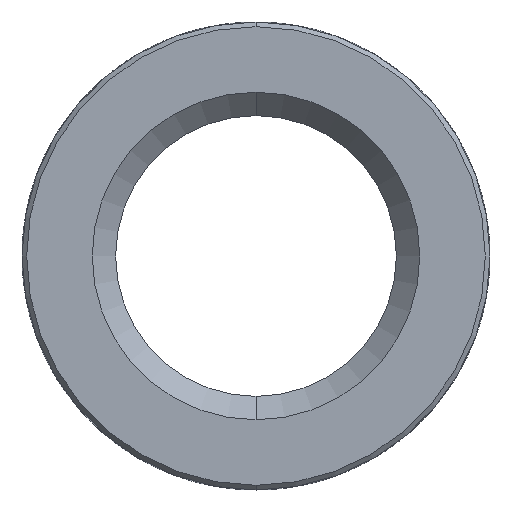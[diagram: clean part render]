
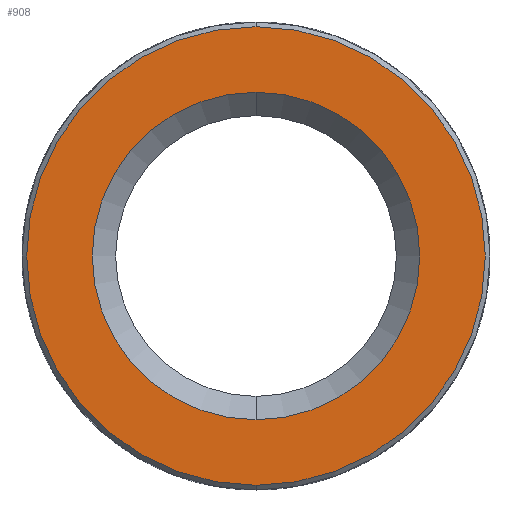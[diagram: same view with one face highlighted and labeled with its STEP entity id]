
A CAD part, front view. The second image highlights one B-rep face of the part: STEP entity #908.
In plain terms, the highlighted planar face has unit normal (0, -1, 0).
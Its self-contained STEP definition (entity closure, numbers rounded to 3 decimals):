
#254 = VERTEX_POINT ( 'NONE', #1795 ) ;
#307 = DIRECTION ( 'NONE',  ( 0., 0., -1. ) ) ;
#365 = CIRCLE ( 'NONE', #3553, 3.5 ) ;
#474 = ORIENTED_EDGE ( 'NONE', *, *, #2807, .T. ) ;
#486 = DIRECTION ( 'NONE',  ( 0., 0., -1. ) ) ;
#589 = CIRCLE ( 'NONE', #3650, 4.9 ) ;
#605 = DIRECTION ( 'NONE',  ( 0., 1., 0. ) ) ;
#674 = DIRECTION ( 'NONE',  ( 0., -1., 0. ) ) ;
#805 = DIRECTION ( 'NONE',  ( 0., -1., 0. ) ) ;
#908 = ADVANCED_FACE ( 'NONE', ( #1600, #2886 ), #3027, .T. ) ;
#1286 = CARTESIAN_POINT ( 'NONE',  ( 0., -7.1, 5. ) ) ;
#1304 = EDGE_CURVE ( 'NONE', #254, #3192, #365, .T. ) ;
#1306 = AXIS2_PLACEMENT_3D ( 'NONE', #1465, #605, #1740 ) ;
#1360 = CARTESIAN_POINT ( 'NONE',  ( 0., -7.1, 4.9 ) ) ;
#1414 = ORIENTED_EDGE ( 'NONE', *, *, #3244, .T. ) ;
#1455 = CARTESIAN_POINT ( 'NONE',  ( 0., -7.1, 0. ) ) ;
#1465 = CARTESIAN_POINT ( 'NONE',  ( 0., -7.1, 0. ) ) ;
#1536 = CARTESIAN_POINT ( 'NONE',  ( 0., -7.1, -3.5 ) ) ;
#1575 = ORIENTED_EDGE ( 'NONE', *, *, #1304, .T. ) ;
#1600 = FACE_OUTER_BOUND ( 'NONE', #2716, .T. ) ;
#1740 = DIRECTION ( 'NONE',  ( 0., 0., -1. ) ) ;
#1795 = CARTESIAN_POINT ( 'NONE',  ( 0., -7.1, 3.5 ) ) ;
#1814 = CARTESIAN_POINT ( 'NONE',  ( 0., -7.1, -4.9 ) ) ;
#1944 = CARTESIAN_POINT ( 'NONE',  ( 0., -7.1, 0. ) ) ;
#2167 = AXIS2_PLACEMENT_3D ( 'NONE', #1944, #805, #486 ) ;
#2175 = DIRECTION ( 'NONE',  ( 0., 0., -1. ) ) ;
#2190 = VERTEX_POINT ( 'NONE', #1360 ) ;
#2476 = EDGE_LOOP ( 'NONE', ( #474, #1575 ) ) ;
#2515 = CIRCLE ( 'NONE', #2167, 4.9 ) ;
#2564 = VERTEX_POINT ( 'NONE', #1814 ) ;
#2585 = CIRCLE ( 'NONE', #1306, 3.5 ) ;
#2643 = DIRECTION ( 'NONE',  ( 0., 1., 0. ) ) ;
#2716 = EDGE_LOOP ( 'NONE', ( #3026, #1414 ) ) ;
#2745 = EDGE_CURVE ( 'NONE', #2190, #2564, #589, .T. ) ;
#2807 = EDGE_CURVE ( 'NONE', #3192, #254, #2585, .T. ) ;
#2886 = FACE_BOUND ( 'NONE', #2476, .T. ) ;
#2936 = DIRECTION ( 'NONE',  ( 0., -1., 0. ) ) ;
#2937 = CARTESIAN_POINT ( 'NONE',  ( 0., -7.1, 0. ) ) ;
#3026 = ORIENTED_EDGE ( 'NONE', *, *, #2745, .T. ) ;
#3027 = PLANE ( 'NONE',  #3208 ) ;
#3192 = VERTEX_POINT ( 'NONE', #1536 ) ;
#3208 = AXIS2_PLACEMENT_3D ( 'NONE', #1286, #674, #2175 ) ;
#3244 = EDGE_CURVE ( 'NONE', #2564, #2190, #2515, .T. ) ;
#3480 = DIRECTION ( 'NONE',  ( 0., 0., -1. ) ) ;
#3553 = AXIS2_PLACEMENT_3D ( 'NONE', #2937, #2643, #307 ) ;
#3650 = AXIS2_PLACEMENT_3D ( 'NONE', #1455, #2936, #3480 ) ;
